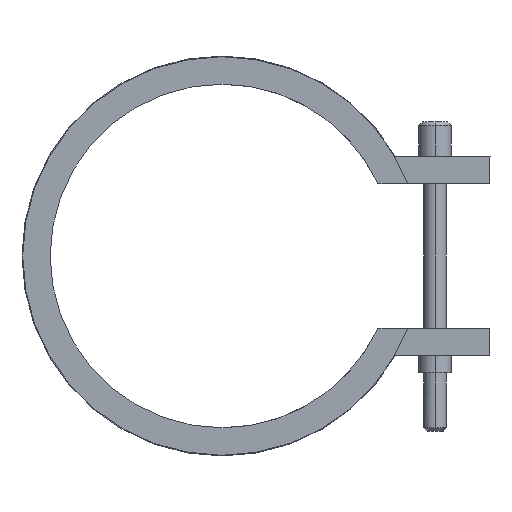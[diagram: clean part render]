
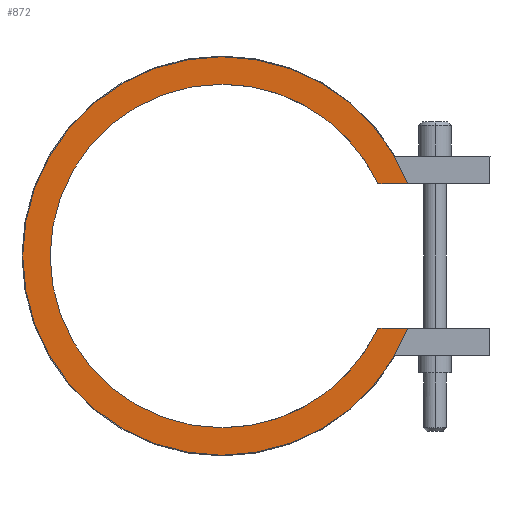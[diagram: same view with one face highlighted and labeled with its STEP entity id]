
A CAD part, left-side view. The second image highlights one B-rep face of the part: STEP entity #872.
In plain terms, the highlighted planar face has unit normal (-1, 0, 0).
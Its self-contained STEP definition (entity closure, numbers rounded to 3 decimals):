
#410=CARTESIAN_POINT('Vertex',(-10.,-22.688,-10.5)) ;
#413=CARTESIAN_POINT('Line Origine',(-10.,-24.86,-10.5)) ;
#417=CARTESIAN_POINT('Vertex',(-10.,-27.032,-10.5)) ;
#463=CARTESIAN_POINT('Vertex',(-10.,0.,-29.)) ;
#466=CARTESIAN_POINT('Axis2P3D Location',(-10.,0.,0.)) ;
#487=CARTESIAN_POINT('Vertex',(-10.,0.,29.)) ;
#490=CARTESIAN_POINT('Axis2P3D Location',(-10.,0.,0.)) ;
#502=CARTESIAN_POINT('Axis2P3D Location',(-10.,0.,0.)) ;
#506=CARTESIAN_POINT('Vertex',(-10.,-27.032,10.5)) ;
#526=CARTESIAN_POINT('Line Origine',(-10.,-24.86,10.5)) ;
#530=CARTESIAN_POINT('Vertex',(-10.,-22.688,10.5)) ;
#818=CARTESIAN_POINT('Axis2P3D Location',(-10.,0.,0.)) ;
#822=CARTESIAN_POINT('Vertex',(-10.,0.,-25.)) ;
#845=CARTESIAN_POINT('Axis2P3D Location',(-10.,0.,0.)) ;
#850=CARTESIAN_POINT('Axis2P3D Location',(-10.,0.,0.)) ;
#854=CARTESIAN_POINT('Vertex',(-10.,0.,25.)) ;
#857=CARTESIAN_POINT('Axis2P3D Location',(-10.,0.,0.)) ;
#414=DIRECTION('Vector Direction',(0.,1.,0.)) ;
#467=DIRECTION('Axis2P3D Direction',(1.,0.,-0.)) ;
#491=DIRECTION('Axis2P3D Direction',(1.,0.,-0.)) ;
#503=DIRECTION('Axis2P3D Direction',(1.,0.,-0.)) ;
#527=DIRECTION('Vector Direction',(0.,-1.,0.)) ;
#819=DIRECTION('Axis2P3D Direction',(1.,0.,-0.)) ;
#846=DIRECTION('Axis2P3D Direction',(1.,0.,0.)) ;
#847=DIRECTION('Axis2P3D XDirection',(0.,0.,-1.)) ;
#851=DIRECTION('Axis2P3D Direction',(1.,0.,0.)) ;
#858=DIRECTION('Axis2P3D Direction',(1.,0.,0.)) ;
#468=AXIS2_PLACEMENT_3D('Circle Axis2P3D',#466,#467,$) ;
#492=AXIS2_PLACEMENT_3D('Circle Axis2P3D',#490,#491,$) ;
#504=AXIS2_PLACEMENT_3D('Circle Axis2P3D',#502,#503,$) ;
#820=AXIS2_PLACEMENT_3D('Circle Axis2P3D',#818,#819,$) ;
#848=AXIS2_PLACEMENT_3D('Plane Axis2P3D',#845,#846,#847) ;
#852=AXIS2_PLACEMENT_3D('Circle Axis2P3D',#850,#851,$) ;
#859=AXIS2_PLACEMENT_3D('Circle Axis2P3D',#857,#858,$) ;
#863=ORIENTED_EDGE('',*,*,#419,.T.) ;
#864=ORIENTED_EDGE('',*,*,#824,.T.) ;
#865=ORIENTED_EDGE('',*,*,#856,.T.) ;
#866=ORIENTED_EDGE('',*,*,#861,.T.) ;
#867=ORIENTED_EDGE('',*,*,#532,.T.) ;
#868=ORIENTED_EDGE('',*,*,#508,.F.) ;
#869=ORIENTED_EDGE('',*,*,#494,.F.) ;
#870=ORIENTED_EDGE('',*,*,#470,.F.) ;
#415=VECTOR('Line Direction',#414,1.) ;
#528=VECTOR('Line Direction',#527,1.) ;
#872=ADVANCED_FACE('14050020',(#871),#849,.F.) ;
#469=CIRCLE('generated circle',#468,29.) ;
#493=CIRCLE('generated circle',#492,29.) ;
#505=CIRCLE('generated circle',#504,29.) ;
#821=CIRCLE('generated circle',#820,25.) ;
#853=CIRCLE('generated circle',#852,25.) ;
#860=CIRCLE('generated circle',#859,25.) ;
#419=EDGE_CURVE('',#418,#411,#416,.T.) ;
#470=EDGE_CURVE('',#418,#464,#469,.T.) ;
#494=EDGE_CURVE('',#464,#488,#493,.T.) ;
#508=EDGE_CURVE('',#488,#507,#505,.T.) ;
#532=EDGE_CURVE('',#531,#507,#529,.T.) ;
#824=EDGE_CURVE('',#411,#823,#821,.T.) ;
#856=EDGE_CURVE('',#823,#855,#853,.T.) ;
#861=EDGE_CURVE('',#855,#531,#860,.T.) ;
#862=EDGE_LOOP('',(#863,#864,#865,#866,#867,#868,#869,#870)) ;
#871=FACE_OUTER_BOUND('',#862,.T.) ;
#416=LINE('Line',#413,#415) ;
#529=LINE('Line',#526,#528) ;
#849=PLANE('Plane',#848) ;
#411=VERTEX_POINT('',#410) ;
#418=VERTEX_POINT('',#417) ;
#464=VERTEX_POINT('',#463) ;
#488=VERTEX_POINT('',#487) ;
#507=VERTEX_POINT('',#506) ;
#531=VERTEX_POINT('',#530) ;
#823=VERTEX_POINT('',#822) ;
#855=VERTEX_POINT('',#854) ;
